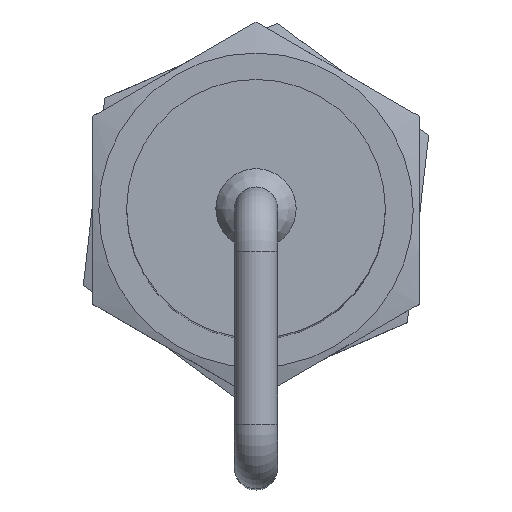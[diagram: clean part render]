
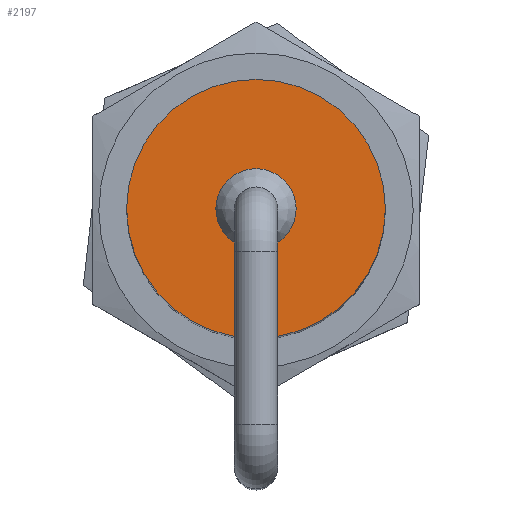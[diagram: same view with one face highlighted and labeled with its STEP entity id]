
A CAD part, top view. The second image highlights one B-rep face of the part: STEP entity #2197.
In plain terms, the highlighted planar face has unit normal (0, 0, 1).
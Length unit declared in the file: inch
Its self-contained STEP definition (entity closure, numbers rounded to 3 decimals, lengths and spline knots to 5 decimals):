
#220=FACE_BOUND('',#508,.T.);
#256=PLANE('',#2537);
#371=FACE_OUTER_BOUND('',#507,.T.);
#507=EDGE_LOOP('',(#1821));
#508=EDGE_LOOP('',(#1822));
#774=CIRCLE('',#2523,0.11628);
#779=CIRCLE('',#2536,0.375);
#955=VERTEX_POINT('',#5696);
#979=VERTEX_POINT('',#12222);
#1222=EDGE_CURVE('',#955,#955,#774,.T.);
#1265=EDGE_CURVE('',#979,#979,#779,.T.);
#1821=ORIENTED_EDGE('',*,*,#1265,.T.);
#1822=ORIENTED_EDGE('',*,*,#1222,.T.);
#2197=ADVANCED_FACE('',(#371,#220),#256,.T.);
#2523=AXIS2_PLACEMENT_3D('',#5698,#2903,#2904);
#2536=AXIS2_PLACEMENT_3D('',#12223,#2938,#2939);
#2537=AXIS2_PLACEMENT_3D('',#12225,#2941,#2942);
#2903=DIRECTION('center_axis',(0.,0.,
-1.));
#2904=DIRECTION('ref_axis',(1.,0.,0.));
#2938=DIRECTION('center_axis',(0.,0.,1.));
#2939=DIRECTION('ref_axis',(1.,0.,0.));
#2941=DIRECTION('center_axis',(0.,0.,1.));
#2942=DIRECTION('ref_axis',(1.,0.,0.));
#5696=CARTESIAN_POINT('',(-0.11628,0.,3.25));
#5698=CARTESIAN_POINT('Origin',(0.,0.,
3.25));
#12222=CARTESIAN_POINT('',(-0.375,0.,3.25));
#12223=CARTESIAN_POINT('Origin',(0.,0.,3.25));
#12225=CARTESIAN_POINT('Origin',(0.,0.,3.25));
